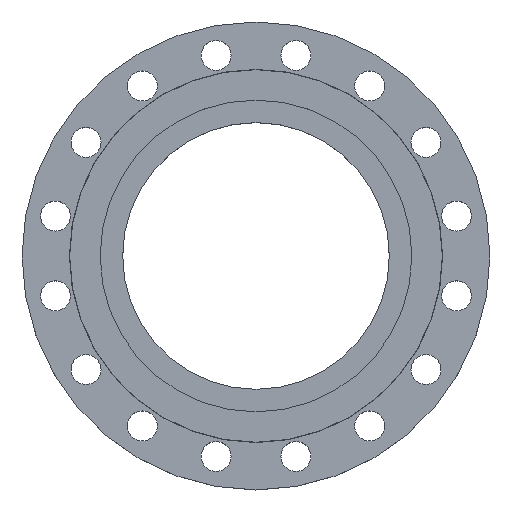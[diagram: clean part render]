
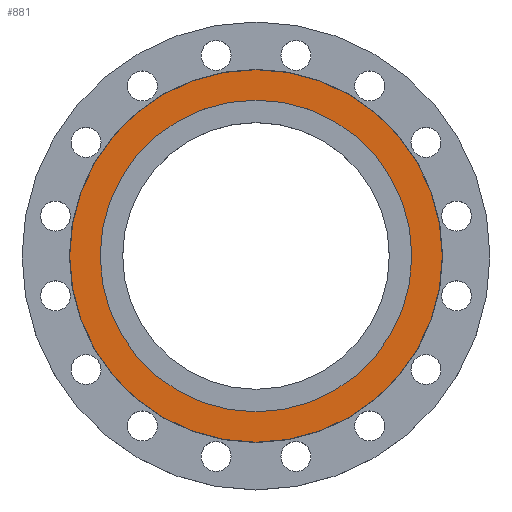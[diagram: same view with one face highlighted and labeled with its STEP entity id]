
A CAD part, top view. The second image highlights one B-rep face of the part: STEP entity #881.
In plain terms, the highlighted planar face has unit normal (0, 0, 1).
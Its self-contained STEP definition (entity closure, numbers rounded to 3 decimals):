
#235 = AXIS2_PLACEMENT_3D ( 'NONE', #1062, #1060, #1058 ) ;
#284 = DIRECTION ( 'NONE',  ( -1., 0., 0. ) ) ;
#285 = DIRECTION ( 'NONE',  ( 0., 0., -1. ) ) ;
#291 = CARTESIAN_POINT ( 'NONE',  ( 0., 0., 0. ) ) ;
#411 = DIRECTION ( 'NONE',  ( -1., 0., 0. ) ) ;
#413 = DIRECTION ( 'NONE',  ( 0., 0., -1. ) ) ;
#414 = CARTESIAN_POINT ( 'NONE',  ( 0., 0., 0. ) ) ;
#433 = VERTEX_POINT ( 'NONE', #1673 ) ;
#442 = VERTEX_POINT ( 'NONE', #1664 ) ;
#538 = EDGE_CURVE ( 'NONE', #728, #442, #1323, .T. ) ;
#553 = AXIS2_PLACEMENT_3D ( 'NONE', #291, #285, #284 ) ;
#580 = AXIS2_PLACEMENT_3D ( 'NONE', #414, #413, #411 ) ;
#664 = AXIS2_PLACEMENT_3D ( 'NONE', #1551, #1550, #1549 ) ;
#708 = VERTEX_POINT ( 'NONE', #1291 ) ;
#728 = VERTEX_POINT ( 'NONE', #1264 ) ;
#738 = EDGE_LOOP ( 'NONE', ( #1605, #1606 ) ) ;
#813 = EDGE_CURVE ( 'NONE', #708, #433, #968, .T. ) ;
#881 = ADVANCED_FACE ( 'NONE', ( #1022, #1021 ), #1020, .T. ) ;
#968 = CIRCLE ( 'NONE', #235, 171.5 ) ;
#1017 = DIRECTION ( 'NONE',  ( 1., 0., 0. ) ) ;
#1018 = DIRECTION ( 'NONE',  ( 0., 0., 1. ) ) ;
#1019 = CARTESIAN_POINT ( 'NONE',  ( 0., 0., 0. ) ) ;
#1020 = PLANE ( 'NONE',  #1662 ) ;
#1021 = FACE_BOUND ( 'NONE', #738, .T. ) ;
#1022 = FACE_OUTER_BOUND ( 'NONE', #1512, .T. ) ;
#1058 = DIRECTION ( 'NONE',  ( -1., 0., 0. ) ) ;
#1060 = DIRECTION ( 'NONE',  ( 0., 0., -1. ) ) ;
#1062 = CARTESIAN_POINT ( 'NONE',  ( 0., 0., 0. ) ) ;
#1179 = CIRCLE ( 'NONE', #553, 205. ) ;
#1206 = CIRCLE ( 'NONE', #580, 171.5 ) ;
#1264 = CARTESIAN_POINT ( 'NONE',  ( 205., 0., 0. ) ) ;
#1291 = CARTESIAN_POINT ( 'NONE',  ( 171.5, 0., 0. ) ) ;
#1323 = CIRCLE ( 'NONE', #664, 205. ) ;
#1474 = EDGE_CURVE ( 'NONE', #433, #708, #1206, .T. ) ;
#1512 = EDGE_LOOP ( 'NONE', ( #1591, #1595 ) ) ;
#1549 = DIRECTION ( 'NONE',  ( -1., 0., 0. ) ) ;
#1550 = DIRECTION ( 'NONE',  ( 0., 0., -1. ) ) ;
#1551 = CARTESIAN_POINT ( 'NONE',  ( 0., 0., 0. ) ) ;
#1576 = EDGE_CURVE ( 'NONE', #442, #728, #1179, .T. ) ;
#1591 = ORIENTED_EDGE ( 'NONE', *, *, #1576, .F. ) ;
#1595 = ORIENTED_EDGE ( 'NONE', *, *, #538, .F. ) ;
#1605 = ORIENTED_EDGE ( 'NONE', *, *, #1474, .T. ) ;
#1606 = ORIENTED_EDGE ( 'NONE', *, *, #813, .T. ) ;
#1662 = AXIS2_PLACEMENT_3D ( 'NONE', #1019, #1018, #1017 ) ;
#1664 = CARTESIAN_POINT ( 'NONE',  ( -205., 0., 0. ) ) ;
#1673 = CARTESIAN_POINT ( 'NONE',  ( -171.5, 0., 0. ) ) ;
